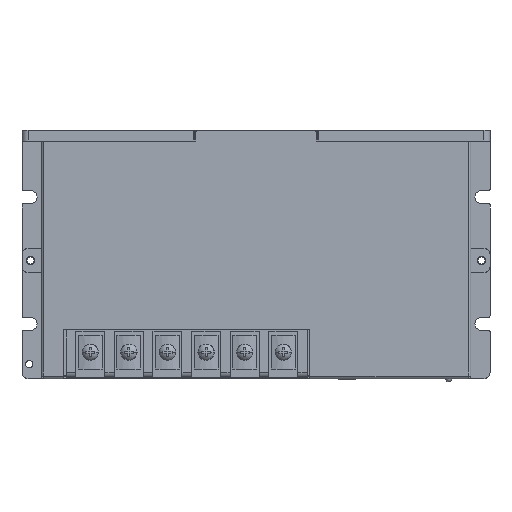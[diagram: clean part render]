
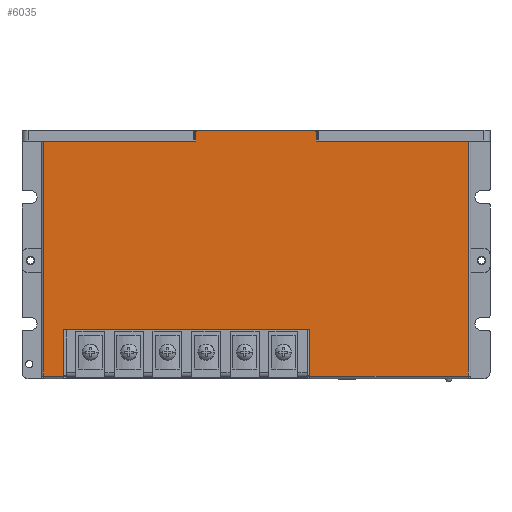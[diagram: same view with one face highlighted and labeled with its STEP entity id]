
A CAD part, front view. The second image highlights one B-rep face of the part: STEP entity #6035.
In plain terms, the highlighted planar face has unit normal (0, -1, 0).
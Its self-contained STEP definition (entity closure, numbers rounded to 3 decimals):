
#3484=DIRECTION('',(0.,0.,1.));
#3485=VECTOR('',#3484,19.5);
#3486=CARTESIAN_POINT('',(-79.7,-5.4,-96.5));
#3487=LINE('',#3486,#3485);
#3488=DIRECTION('',(0.,0.,1.));
#3489=VECTOR('',#3488,0.1);
#3490=CARTESIAN_POINT('',(-88.,-5.4,-96.5));
#3491=LINE('',#3490,#3489);
#3492=DIRECTION('',(0.,0.,1.));
#3493=VECTOR('',#3492,3.5);
#3494=CARTESIAN_POINT('',(-25.,-5.4,1.));
#3495=LINE('',#3494,#3493);
#3496=CARTESIAN_POINT('',(-24.,-5.4,4.5));
#3497=DIRECTION('',(0.,1.,0.));
#3498=DIRECTION('',(-1.,0.,0.));
#3499=AXIS2_PLACEMENT_3D('',#3496,#3497,#3498);
#3501=DIRECTION('',(1.,0.,0.));
#3502=VECTOR('',#3501,48.);
#3503=CARTESIAN_POINT('',(-24.,-5.4,5.5));
#3504=LINE('',#3503,#3502);
#3505=CARTESIAN_POINT('',(24.,-5.4,4.5));
#3506=DIRECTION('',(0.,1.,0.));
#3507=DIRECTION('',(0.,0.,1.));
#3508=AXIS2_PLACEMENT_3D('',#3505,#3506,#3507);
#3510=DIRECTION('',(0.,0.,-1.));
#3511=VECTOR('',#3510,3.5);
#3512=CARTESIAN_POINT('',(25.,-5.4,4.5));
#3513=LINE('',#3512,#3511);
#3514=DIRECTION('',(0.,0.,-1.));
#3515=VECTOR('',#3514,0.1);
#3516=CARTESIAN_POINT('',(88.,-5.4,-96.4));
#3517=LINE('',#3516,#3515);
#3518=DIRECTION('',(-1.,0.,0.));
#3519=VECTOR('',#3518,65.7);
#3520=CARTESIAN_POINT('',(88.,-5.4,-96.5));
#3521=LINE('',#3520,#3519);
#3522=DIRECTION('',(0.,0.,1.));
#3523=VECTOR('',#3522,19.5);
#3524=CARTESIAN_POINT('',(22.3,-5.4,-96.5));
#3525=LINE('',#3524,#3523);
#3526=DIRECTION('',(-1.,0.,0.));
#3527=VECTOR('',#3526,102.);
#3528=CARTESIAN_POINT('',(22.3,-5.4,-77.));
#3529=LINE('',#3528,#3527);
#3569=DIRECTION('',(0.,0.,1.));
#3570=VECTOR('',#3569,97.4);
#3571=CARTESIAN_POINT('',(88.,-5.4,-96.4));
#3572=LINE('',#3571,#3570);
#3578=DIRECTION('',(-1.,0.,0.));
#3579=VECTOR('',#3578,63.);
#3580=CARTESIAN_POINT('',(88.,-5.4,1.));
#3581=LINE('',#3580,#3579);
#3890=DIRECTION('',(0.,0.,-1.));
#3891=VECTOR('',#3890,97.4);
#3892=CARTESIAN_POINT('',(-88.,-5.4,1.));
#3893=LINE('',#3892,#3891);
#4618=DIRECTION('',(-1.,0.,0.));
#4619=VECTOR('',#4618,63.);
#4620=CARTESIAN_POINT('',(-25.,-5.4,1.));
#4621=LINE('',#4620,#4619);
#4876=DIRECTION('',(1.,0.,0.));
#4877=VECTOR('',#4876,8.3);
#4878=CARTESIAN_POINT('',(-88.,-5.4,-96.5));
#4879=LINE('',#4878,#4877);
#5404=CARTESIAN_POINT('',(-88.,-5.4,1.));
#5405=CARTESIAN_POINT('',(-88.,-5.4,-96.4));
#5406=VERTEX_POINT('',#5404);
#5407=VERTEX_POINT('',#5405);
#5408=CARTESIAN_POINT('',(-25.,-5.4,1.));
#5409=VERTEX_POINT('',#5408);
#5410=CARTESIAN_POINT('',(-25.,-5.4,4.5));
#5411=VERTEX_POINT('',#5410);
#5412=CARTESIAN_POINT('',(-24.,-5.4,5.5));
#5413=VERTEX_POINT('',#5412);
#5414=CARTESIAN_POINT('',(24.,-5.4,5.5));
#5415=VERTEX_POINT('',#5414);
#5416=CARTESIAN_POINT('',(25.,-5.4,4.5));
#5417=VERTEX_POINT('',#5416);
#5418=CARTESIAN_POINT('',(25.,-5.4,1.));
#5419=VERTEX_POINT('',#5418);
#5420=CARTESIAN_POINT('',(88.,-5.4,1.));
#5421=VERTEX_POINT('',#5420);
#5422=CARTESIAN_POINT('',(88.,-5.4,-96.4));
#5423=VERTEX_POINT('',#5422);
#5424=CARTESIAN_POINT('',(88.,-5.4,-96.5));
#5425=VERTEX_POINT('',#5424);
#5426=CARTESIAN_POINT('',(-88.,-5.4,-96.5));
#5427=VERTEX_POINT('',#5426);
#5712=CARTESIAN_POINT('',(-79.7,-5.4,-96.5));
#5713=CARTESIAN_POINT('',(-79.7,-5.4,-77.));
#5714=VERTEX_POINT('',#5712);
#5715=VERTEX_POINT('',#5713);
#5716=CARTESIAN_POINT('',(22.3,-5.4,-96.5));
#5717=CARTESIAN_POINT('',(22.3,-5.4,-77.));
#5718=VERTEX_POINT('',#5716);
#5719=VERTEX_POINT('',#5717);
#5996=CARTESIAN_POINT('',(-97.,-5.4,0.));
#5997=DIRECTION('',(0.,-1.,0.));
#5998=DIRECTION('',(1.,0.,0.));
#5999=AXIS2_PLACEMENT_3D('',#5996,#5997,#5998);
#6000=PLANE('',#5999);
#6002=ORIENTED_EDGE('',*,*,#6001,.F.);
#6004=ORIENTED_EDGE('',*,*,#6003,.F.);
#6006=ORIENTED_EDGE('',*,*,#6005,.T.);
#6008=ORIENTED_EDGE('',*,*,#6007,.F.);
#6010=ORIENTED_EDGE('',*,*,#6009,.F.);
#6012=ORIENTED_EDGE('',*,*,#6011,.T.);
#6014=ORIENTED_EDGE('',*,*,#6013,.T.);
#6016=ORIENTED_EDGE('',*,*,#6015,.T.);
#6018=ORIENTED_EDGE('',*,*,#6017,.T.);
#6020=ORIENTED_EDGE('',*,*,#6019,.T.);
#6022=ORIENTED_EDGE('',*,*,#6021,.F.);
#6024=ORIENTED_EDGE('',*,*,#6023,.F.);
#6026=ORIENTED_EDGE('',*,*,#6025,.T.);
#6028=ORIENTED_EDGE('',*,*,#6027,.T.);
#6030=ORIENTED_EDGE('',*,*,#6029,.T.);
#6032=ORIENTED_EDGE('',*,*,#6031,.T.);
#6033=EDGE_LOOP('',(#6002,#6004,#6006,#6008,#6010,#6012,#6014,#6016,#6018,#6020,
#6022,#6024,#6026,#6028,#6030,#6032));
#6034=FACE_OUTER_BOUND('',#6033,.F.);
#6035=ADVANCED_FACE('',(#6034),#6000,.T.);
#3500=CIRCLE('',#3499,1.);
#3509=CIRCLE('',#3508,1.);
#6001=EDGE_CURVE('',#5714,#5715,#3487,.T.);
#6003=EDGE_CURVE('',#5427,#5714,#4879,.T.);
#6005=EDGE_CURVE('',#5427,#5407,#3491,.T.);
#6007=EDGE_CURVE('',#5406,#5407,#3893,.T.);
#6009=EDGE_CURVE('',#5409,#5406,#4621,.T.);
#6011=EDGE_CURVE('',#5409,#5411,#3495,.T.);
#6013=EDGE_CURVE('',#5411,#5413,#3500,.T.);
#6015=EDGE_CURVE('',#5413,#5415,#3504,.T.);
#6017=EDGE_CURVE('',#5415,#5417,#3509,.T.);
#6019=EDGE_CURVE('',#5417,#5419,#3513,.T.);
#6021=EDGE_CURVE('',#5421,#5419,#3581,.T.);
#6023=EDGE_CURVE('',#5423,#5421,#3572,.T.);
#6025=EDGE_CURVE('',#5423,#5425,#3517,.T.);
#6027=EDGE_CURVE('',#5425,#5718,#3521,.T.);
#6029=EDGE_CURVE('',#5718,#5719,#3525,.T.);
#6031=EDGE_CURVE('',#5719,#5715,#3529,.T.);
